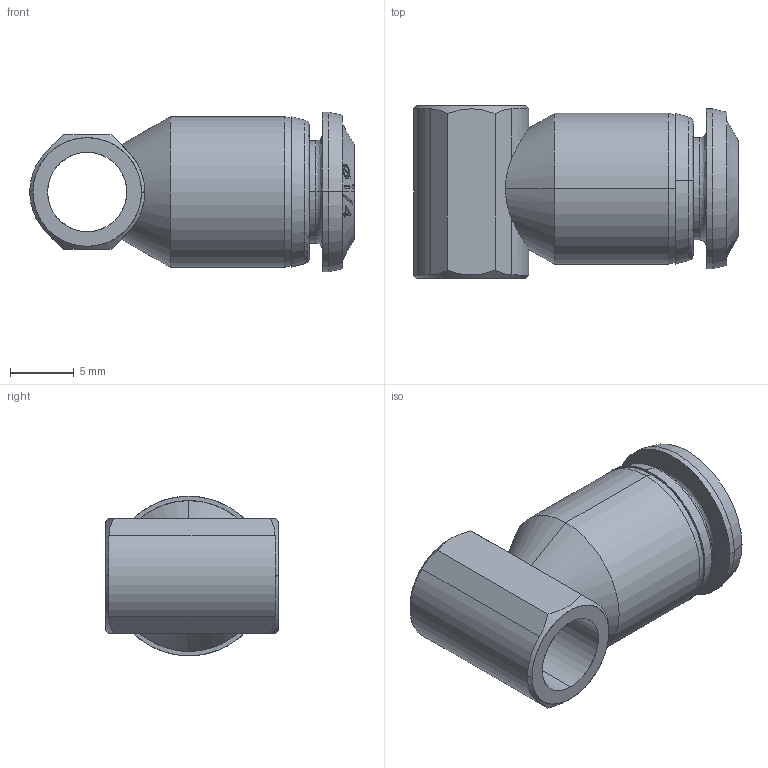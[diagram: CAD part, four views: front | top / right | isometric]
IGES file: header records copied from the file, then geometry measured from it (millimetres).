
Start section: SolidWorks IGES file using analytic representation for surfaces
Global section: file name: K:\Disegni Esecutivi\ALPHA TECHNOLOGIES\85000\Assiemi-85000\85500\IGES\8550000010A.IGS; native system: SolidWorks 2016; preprocessor: SolidWorks 2016; author: cad06; date: 200520.131505; units: millimetre
Bounding box: 25.4 x 13.5 x 12.5 mm (x, y, z)
Surface area: 1831.2 mm2 (no closed solid volume)
Topology: 0 solids, 0 shells, 96 faces, 1061 edges, 1061 vertices
Faces by surface type: bspline 60, revolution 36
